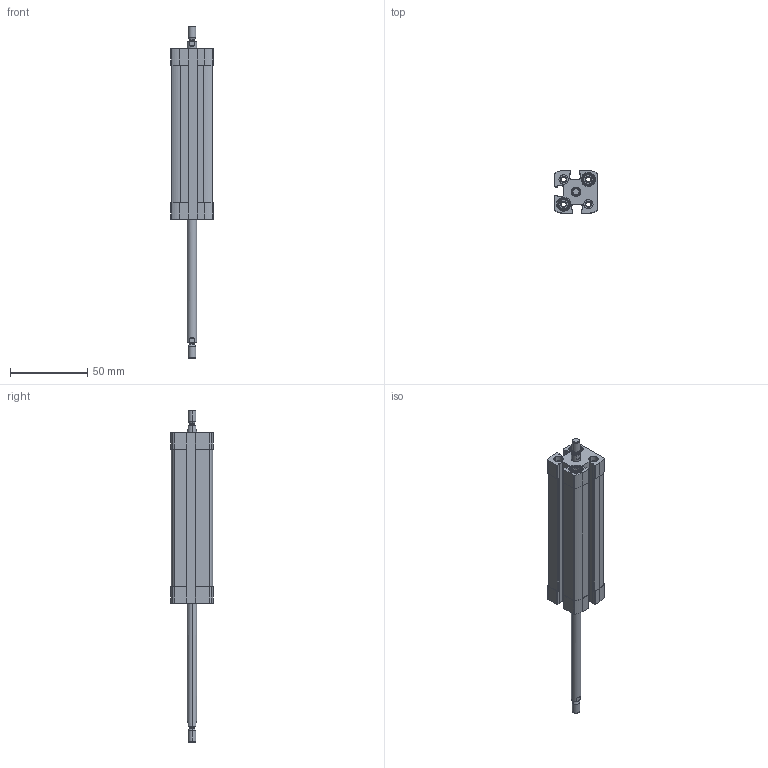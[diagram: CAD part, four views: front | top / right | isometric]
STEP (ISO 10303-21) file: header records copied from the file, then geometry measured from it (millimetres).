
FILE_DESCRIPTION (( 'STEP AP203' ), '1' );
FILE_NAME ('CCN12-75-P.STEP', '2020-06-22T18:35:40', ( '' ), ( '' ), 'SwSTEP 2.0', 'SolidWorks 2019', '' );
FILE_SCHEMA (( 'CONFIG_CONTROL_DESIGN' ));
Length unit declared in the file: millimetre
Products named in the file (1): CCN12-75-P
Bounding box: 27.5 x 27.5 x 214.5 mm (x, y, z)
Volume: 58719.5 mm3; surface area: 31323.5 mm2
Topology: 2 solids, 2 shells, 384 faces, 976 edges, 632 vertices
Faces by surface type: plane 192, cylinder 140, cone 44, torus 8
Entity records: 11783 total; most frequent: CARTESIAN_POINT 2293, DIRECTION 1986, ORIENTED_EDGE 1952, EDGE_CURVE 976, AXIS2_PLACEMENT_3D 725, VERTEX_POINT 632, LINE 536, VECTOR 536
